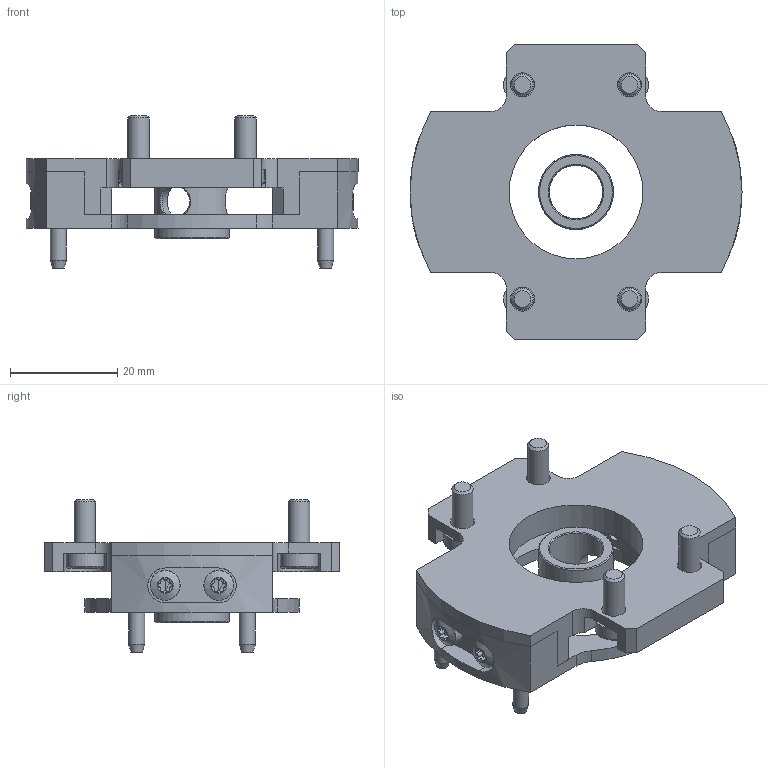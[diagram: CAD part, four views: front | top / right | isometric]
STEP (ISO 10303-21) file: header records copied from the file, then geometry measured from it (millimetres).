
FILE_DESCRIPTION(/* description */ (''),/* implementation_level */ '2;1');
FILE_NAME(/* name */ 'C:\ProgramData\PROCAD GmbH & Co. KG\NdfWork\339576_NdfWork\D00293025.step',/* time_stamp */ '2021-03-05T09:02:58+01:00',/* author */ ('fberger'),/* organization */ (''),/* preprocessor_version */ 'ST-DEVELOPER v18.1',/* originating_system */ 'Autodesk Inventor 2020',/* authorisation */ '');
FILE_SCHEMA (('AUTOMOTIVE_DESIGN { 1 0 10303 214 3 1 1 }'));
Length unit declared in the file: millimetre
Products named in the file (7): D00293025.iam; D00291212.ipt; D00291213.ipt; D00144579.ipt; D00187700.ipt; D00128762.ipt; D00292872.ipt
Assembly tree (15 placements, depth 2):
  D00293025.iam
    D00291212.ipt
    D00291213.ipt
    D00144579.ipt
    D00187700.ipt  x4
    D00128762.ipt  x4
    D00292872.ipt  x4
Bounding box: 62 x 55 x 28.5 mm (x, y, z)
Volume: 18204.1 mm3; surface area: 15604.1 mm2
Topology: 15 solids, 15 shells, 414 faces, 1125 edges, 761 vertices
Faces by surface type: cylinder 173, plane 122, bspline 51, cone 32, torus 32, sphere 4
Full cylindrical faces by diameter (mm): 2.459 x4, 2.828 x4, 3 x8, 3.3 x8, 4 x4, 4.5 x4, 5.3 x4, 5.6 x4, 6 x7, 7 x4, 10 x1, 14 x1, 25 x1, 30 x1
Entity records: 8289 total; most frequent: CARTESIAN_POINT 2906, ORIENTED_EDGE 1070, DIRECTION 1044, EDGE_CURVE 535, AXIS2_PLACEMENT_3D 398, VERTEX_POINT 366, LINE 248, VECTOR 248
